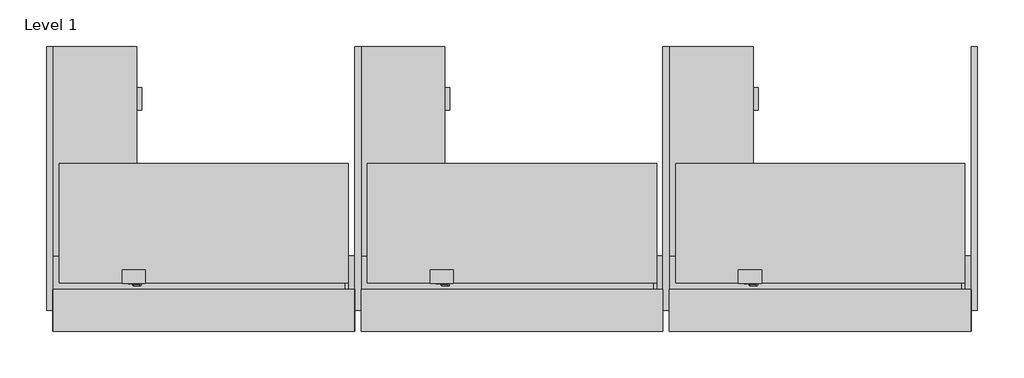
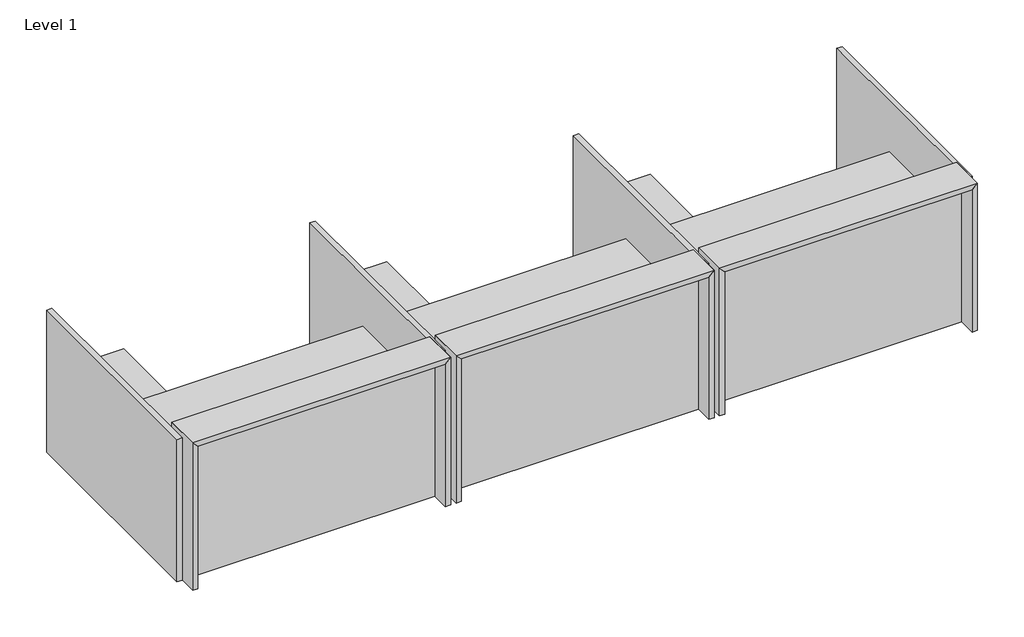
# One storey, incomplete: 28 proxies.
"""IFC4 building model written with IfcOpenShell, lengths in millimetres."""

from ifc_helpers import new_model, si_unit, origin, place, context, project, spatial, transform, mapped, element, save
from components import generic_models_7dc40182, generic_models_19d1f09c, generic_models_3d88de87, generic_models_3ae7f531, generic_models_7659658e, generic_models_309273ef, generic_models_39566638, generic_models_0a960df9, generic_models_c0d02f84

model = new_model("IFC4")

# Units and contexts
model_context = context("Model", 3, world=origin())
ifc_project = project(units=[si_unit("LENGTHUNIT", "METRE", prefix="MILLI")], contexts=[model_context])

# Site, building, storey
site = spatial("IfcSite", under=ifc_project)
building = spatial("IfcBuilding", under=site)
storey = spatial("IfcBuildingStorey", under=building, Name="Level 1", Elevation=0.0)

# Proxies
placement = place(None, origin())
generic_models_shape = generic_models_7dc40182(model_context)
element("IfcBuildingElementProxy", 1, Name="FOUNDATION^OPEN OFFICE 3_12x29x72 WIRE WALL-PARTS SOLID", ObjectType="FOUNDATION^OPEN OFFICE 3_12x29x72 WIRE WALL-PARTS SOLID", at=placement, inside=storey, context=model_context, shape_type="MappedRepresentation", body=[
    mapped(generic_models_shape, transform((836.3792965, 1332.4451773, -1531.7521411), x_axis=(-1.0, 0.0, 0.0), y_axis=(0.0, 0.0, 1.0), z_axis=(0.0, 1.0, 0.0))),
])
element("IfcBuildingElementProxy", 2, Name="FOUNDATION^OPEN OFFICE 3_12x29x72 WIRE WALL-PARTS SOLID", ObjectType="FOUNDATION^OPEN OFFICE 3_12x29x72 WIRE WALL-PARTS SOLID", at=placement, inside=storey, context=model_context, shape_type="MappedRepresentation", body=[
    mapped(generic_models_shape, transform((2703.2792965, 1332.4451773, -1531.7521411), x_axis=(-1.0, 0.0, 0.0), y_axis=(0.0, 0.0, 1.0), z_axis=(0.0, 1.0, 0.0))),
])
element("IfcBuildingElementProxy", 3, Name="FOUNDATION^OPEN OFFICE 3_12x29x72 WIRE WALL-PARTS SOLID", ObjectType="FOUNDATION^OPEN OFFICE 3_12x29x72 WIRE WALL-PARTS SOLID", at=placement, inside=storey, context=model_context, shape_type="MappedRepresentation", body=[
    mapped(generic_models_shape, transform((-1030.5207035, 1332.4451773, -1531.7521411), x_axis=(-1.0, 0.0, 0.0), y_axis=(0.0, 0.0, 1.0), z_axis=(0.0, 1.0, 0.0))),
])
generic_models_2_shape = generic_models_19d1f09c(model_context)
element("IfcBuildingElementProxy", 4, Name="FOUNDATION^OPEN OFFICE 3_42x63 GALLERY WALL-PARTS SOLID", ObjectType="FOUNDATION^OPEN OFFICE 3_42x63 GALLERY WALL-PARTS SOLID", at=placement, inside=storey, context=model_context, shape_type="MappedRepresentation", body=[
    mapped(generic_models_2_shape, transform((-2859.3207035, 1307.0451773, -1531.7521411), x_axis=(1.0, 0.0, 0.0), y_axis=(0.0, 0.0, 1.0), z_axis=(0.0, -1.0, 0.0))),
])
element("IfcBuildingElementProxy", 5, Name="FOUNDATION^OPEN OFFICE 3_42x63 GALLERY WALL-PARTS SOLID", ObjectType="FOUNDATION^OPEN OFFICE 3_42x63 GALLERY WALL-PARTS SOLID", at=placement, inside=storey, context=model_context, shape_type="MappedRepresentation", body=[
    mapped(generic_models_2_shape, transform((874.4792965, 1307.0451773, -1531.7521411), x_axis=(1.0, 0.0, 0.0), y_axis=(0.0, 0.0, 1.0), z_axis=(0.0, -1.0, 0.0))),
])
element("IfcBuildingElementProxy", 6, Name="FOUNDATION^OPEN OFFICE 3_42x63 GALLERY WALL-PARTS SOLID", ObjectType="FOUNDATION^OPEN OFFICE 3_42x63 GALLERY WALL-PARTS SOLID", at=placement, inside=storey, context=model_context, shape_type="MappedRepresentation", body=[
    mapped(generic_models_2_shape, transform((-992.4207035, 1307.0451773, -1531.7521411), x_axis=(1.0, 0.0, 0.0), y_axis=(0.0, 0.0, 1.0), z_axis=(0.0, -1.0, 0.0))),
])
element("IfcBuildingElementProxy", 7, Name="FOUNDATION^OPEN OFFICE 3_42x63 GALLERY WALL-PARTS SOLID", ObjectType="FOUNDATION^OPEN OFFICE 3_42x63 GALLERY WALL-PARTS SOLID", at=placement, inside=storey, context=model_context, shape_type="MappedRepresentation", body=[
    mapped(generic_models_2_shape, transform((2741.3792965, 1307.0451773, -1531.7521411), x_axis=(1.0, 0.0, 0.0), y_axis=(0.0, 0.0, 1.0), z_axis=(0.0, -1.0, 0.0))),
])
generic_models_3_shape = generic_models_3d88de87(model_context)
element("IfcBuildingElementProxy", 8, Name="FOUNDATION^WORKSURFACES_LIFT TOP-69x28.5", ObjectType="FOUNDATION^WORKSURFACES_LIFT TOP-69x28.5", at=placement, inside=storey, context=model_context, shape_type="MappedRepresentation", body=[
    mapped(generic_models_3_shape, transform((-2783.1207035, 1472.1451773, -833.2521411), x_axis=(1.0, 0.0, 0.0), y_axis=(0.0, 0.0, 1.0), z_axis=(0.0, -1.0, 0.0))),
])
element("IfcBuildingElementProxy", 9, Name="FOUNDATION^WORKSURFACES_LIFT TOP-69x28.5", ObjectType="FOUNDATION^WORKSURFACES_LIFT TOP-69x28.5", at=placement, inside=storey, context=model_context, shape_type="MappedRepresentation", body=[
    mapped(generic_models_3_shape, transform((950.6792965, 1472.1451773, -833.2521411), x_axis=(1.0, 0.0, 0.0), y_axis=(0.0, 0.0, 1.0), z_axis=(0.0, -1.0, 0.0))),
])
element("IfcBuildingElementProxy", 10, Name="FOUNDATION^WORKSURFACES_LIFT TOP-69x28.5", ObjectType="FOUNDATION^WORKSURFACES_LIFT TOP-69x28.5", at=placement, inside=storey, context=model_context, shape_type="MappedRepresentation", body=[
    mapped(generic_models_3_shape, transform((-916.2207035, 1472.1451773, -833.2521411), x_axis=(1.0, 0.0, 0.0), y_axis=(0.0, 0.0, 1.0), z_axis=(0.0, -1.0, 0.0))),
])
generic_models_4_shape = generic_models_3ae7f531(model_context)
element("IfcBuildingElementProxy", 11, Name="FOUNDATION^CREDENZA 50_LT SHELF BF RT-SOLID ASSEMBLY", ObjectType="FOUNDATION^CREDENZA 50_LT SHELF BF RT-SOLID ASSEMBLY", at=placement, inside=storey, context=model_context, shape_type="MappedRepresentation", body=[
    mapped(generic_models_4_shape, transform((912.5792965, 1637.2451773, -1531.7521411), x_axis=(0.0, 1.0, 0.0), y_axis=(0.0, 0.0, 1.0), z_axis=(1.0, 0.0, 0.0))),
])
element("IfcBuildingElementProxy", 12, Name="FOUNDATION^CREDENZA 50_LT SHELF BF RT-SOLID ASSEMBLY", ObjectType="FOUNDATION^CREDENZA 50_LT SHELF BF RT-SOLID ASSEMBLY", at=placement, inside=storey, context=model_context, shape_type="MappedRepresentation", body=[
    mapped(generic_models_4_shape, transform((-954.3207035, 1637.2451773, -1531.7521411), x_axis=(0.0, 1.0, 0.0), y_axis=(0.0, 0.0, 1.0), z_axis=(1.0, 0.0, 0.0))),
])
element("IfcBuildingElementProxy", 13, Name="FOUNDATION^CREDENZA 50_LT SHELF BF RT-SOLID ASSEMBLY", ObjectType="FOUNDATION^CREDENZA 50_LT SHELF BF RT-SOLID ASSEMBLY", at=placement, inside=storey, context=model_context, shape_type="MappedRepresentation", body=[
    mapped(generic_models_4_shape, transform((-2821.2207035, 1637.2451773, -1531.7521411), x_axis=(0.0, 1.0, 0.0), y_axis=(0.0, 0.0, 1.0), z_axis=(1.0, 0.0, 0.0))),
])
generic_models_5_shape = generic_models_7659658e(model_context)
element("IfcBuildingElementProxy", 14, Name="FOUNDATION^OPEN OFFICE 3_12.94x68.94-TACKBOARD", ObjectType="FOUNDATION^OPEN OFFICE 3_12.94x68.94-TACKBOARD", at=placement, inside=storey, context=model_context, shape_type="MappedRepresentation", body=[
    mapped(generic_models_5_shape, transform((-2782.3269535, 1354.6701773, -794.3583911), x_axis=(1.0, 0.0, 0.0), y_axis=(0.0, 0.0, 1.0), z_axis=(0.0, -1.0, 0.0))),
])
element("IfcBuildingElementProxy", 15, Name="FOUNDATION^OPEN OFFICE 3_12.94x68.94-TACKBOARD", ObjectType="FOUNDATION^OPEN OFFICE 3_12.94x68.94-TACKBOARD", at=placement, inside=storey, context=model_context, shape_type="MappedRepresentation", body=[
    mapped(generic_models_5_shape, transform((-915.4269535, 1354.6701773, -794.3583911), x_axis=(1.0, 0.0, 0.0), y_axis=(0.0, 0.0, 1.0), z_axis=(0.0, -1.0, 0.0))),
])
element("IfcBuildingElementProxy", 16, Name="FOUNDATION^OPEN OFFICE 3_12.94x68.94-TACKBOARD", ObjectType="FOUNDATION^OPEN OFFICE 3_12.94x68.94-TACKBOARD", at=placement, inside=storey, context=model_context, shape_type="MappedRepresentation", body=[
    mapped(generic_models_5_shape, transform((951.4730465, 1354.6701773, -794.3583911), x_axis=(1.0, 0.0, 0.0), y_axis=(0.0, 0.0, 1.0), z_axis=(0.0, -1.0, 0.0))),
])
generic_models_6_shape = generic_models_309273ef(model_context)
element("IfcBuildingElementProxy", 17, Name="CLAMP ON PWR WITH DATA", ObjectType="CLAMP ON PWR WITH DATA", at=placement, inside=storey, context=model_context, shape_type="MappedRepresentation", body=[
    mapped(generic_models_6_shape, transform((-360.9767035, 1482.7806075, -764.3927411), x_axis=(-1.0, 0.0, 0.0), y_axis=(0.0, 0.0, 1.0), z_axis=(0.0, 1.0, 0.0))),
])
element("IfcBuildingElementProxy", 18, Name="CLAMP ON PWR WITH DATA", ObjectType="CLAMP ON PWR WITH DATA", at=placement, inside=storey, context=model_context, shape_type="MappedRepresentation", body=[
    mapped(generic_models_6_shape, transform((-2227.8767035, 1482.7806075, -764.3927411), x_axis=(-1.0, 0.0, 0.0), y_axis=(0.0, 0.0, 1.0), z_axis=(0.0, 1.0, 0.0))),
])
element("IfcBuildingElementProxy", 19, Name="CLAMP ON PWR WITH DATA", ObjectType="CLAMP ON PWR WITH DATA", at=placement, inside=storey, context=model_context, shape_type="MappedRepresentation", body=[
    mapped(generic_models_6_shape, transform((1505.9232965, 1482.7806075, -764.3927411), x_axis=(-1.0, 0.0, 0.0), y_axis=(0.0, 0.0, 1.0), z_axis=(0.0, 1.0, 0.0))),
])
generic_models_7_shape = generic_models_39566638(model_context)
element("IfcBuildingElementProxy", 20, Name="FOUNDATION^WORKSURFACES_OPEN OFFICE 3-48in", ObjectType="FOUNDATION^WORKSURFACES_OPEN OFFICE 3-48in", at=placement, inside=storey, context=model_context, shape_type="MappedRepresentation", body=[
    mapped(generic_models_7_shape, transform((-1297.2207035, 1536.7614573, -884.0521411), x_axis=(-1.0, 0.0, 0.0), y_axis=(0.0, 0.0, 1.0), z_axis=(0.0, 1.0, 0.0))),
])
element("IfcBuildingElementProxy", 21, Name="FOUNDATION^WORKSURFACES_OPEN OFFICE 3-48in", ObjectType="FOUNDATION^WORKSURFACES_OPEN OFFICE 3-48in", at=placement, inside=storey, context=model_context, shape_type="MappedRepresentation", body=[
    mapped(generic_models_7_shape, transform((569.6792965, 1536.7614573, -884.0521411), x_axis=(-1.0, 0.0, 0.0), y_axis=(0.0, 0.0, 1.0), z_axis=(0.0, 1.0, 0.0))),
])
element("IfcBuildingElementProxy", 22, Name="FOUNDATION^WORKSURFACES_OPEN OFFICE 3-48in", ObjectType="FOUNDATION^WORKSURFACES_OPEN OFFICE 3-48in", at=placement, inside=storey, context=model_context, shape_type="MappedRepresentation", body=[
    mapped(generic_models_7_shape, transform((2436.5792965, 1536.7614573, -884.0521411), x_axis=(-1.0, 0.0, 0.0), y_axis=(0.0, 0.0, 1.0), z_axis=(0.0, 1.0, 0.0))),
])
generic_models_8_shape = generic_models_0a960df9(model_context)
element("IfcBuildingElementProxy", 23, Name="H-MP-TUBE1", ObjectType="H-MP-TUBE1", at=placement, inside=storey, context=model_context, shape_type="MappedRepresentation", body=[
    mapped(generic_models_8_shape, transform((1852.3792965, 1544.6303773, -1392.0521411), x_axis=(0.0, 1.0, 0.0), y_axis=(0.0, 0.0, 1.0), z_axis=(1.0, 0.0, 0.0))),
])
element("IfcBuildingElementProxy", 24, Name="H-MP-TUBE1", ObjectType="H-MP-TUBE1", at=placement, inside=storey, context=model_context, shape_type="MappedRepresentation", body=[
    mapped(generic_models_8_shape, transform((-14.5207035, 1544.6303773, -1392.0521411), x_axis=(0.0, 1.0, 0.0), y_axis=(0.0, 0.0, 1.0), z_axis=(1.0, 0.0, 0.0))),
])
element("IfcBuildingElementProxy", 25, Name="H-MP-TUBE1", ObjectType="H-MP-TUBE1", at=placement, inside=storey, context=model_context, shape_type="MappedRepresentation", body=[
    mapped(generic_models_8_shape, transform((-1881.4207035, 1544.6303773, -1392.0521411), x_axis=(0.0, 1.0, 0.0), y_axis=(0.0, 0.0, 1.0), z_axis=(1.0, 0.0, 0.0))),
])
generic_models_9_shape = generic_models_c0d02f84(model_context)
element("IfcBuildingElementProxy", 26, Name="FOUNDATION^OPEN OFFICE 3_43.5x72 FRONT TRANSACTION-PARTS SOLID", ObjectType="FOUNDATION^OPEN OFFICE 3_43.5x72 FRONT TRANSACTION-PARTS SOLID", at=placement, inside=storey, context=model_context, shape_type="MappedRepresentation", body=[
    mapped(generic_models_9_shape, transform((-2821.2207035, 1434.0451773, -1531.7521411), x_axis=(1.0, 0.0, 0.0), y_axis=(0.0, 0.0, 1.0), z_axis=(0.0, -1.0, 0.0))),
])
element("IfcBuildingElementProxy", 27, Name="FOUNDATION^OPEN OFFICE 3_43.5x72 FRONT TRANSACTION-PARTS SOLID", ObjectType="FOUNDATION^OPEN OFFICE 3_43.5x72 FRONT TRANSACTION-PARTS SOLID", at=placement, inside=storey, context=model_context, shape_type="MappedRepresentation", body=[
    mapped(generic_models_9_shape, transform((-954.3207035, 1434.0451773, -1531.7521411), x_axis=(1.0, 0.0, 0.0), y_axis=(0.0, 0.0, 1.0), z_axis=(0.0, -1.0, 0.0))),
])
element("IfcBuildingElementProxy", 28, Name="FOUNDATION^OPEN OFFICE 3_43.5x72 FRONT TRANSACTION-PARTS SOLID", ObjectType="FOUNDATION^OPEN OFFICE 3_43.5x72 FRONT TRANSACTION-PARTS SOLID", at=placement, inside=storey, context=model_context, shape_type="MappedRepresentation", body=[
    mapped(generic_models_9_shape, transform((912.5792965, 1434.0451773, -1531.7521411), x_axis=(1.0, 0.0, 0.0), y_axis=(0.0, 0.0, 1.0), z_axis=(0.0, -1.0, 0.0))),
])

save(model, "model.ifc")
